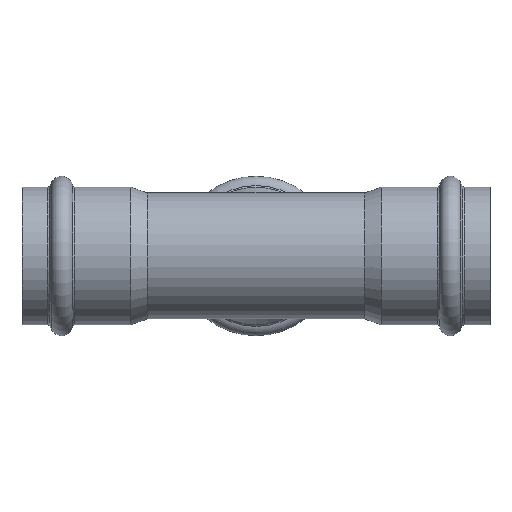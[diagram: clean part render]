
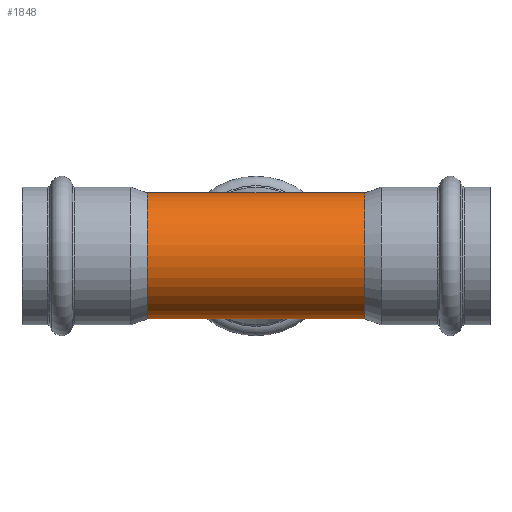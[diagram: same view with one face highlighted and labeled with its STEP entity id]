
A CAD part, front view. The second image highlights one B-rep face of the part: STEP entity #1848.
In plain terms, the highlighted cylindrical face has radius 17.5 mm (diameter 35 mm), a full revolution.
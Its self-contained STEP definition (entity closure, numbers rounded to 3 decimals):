
#1149=CARTESIAN_POINT('',(0.,0.0,-17.5));
#1150=VERTEX_POINT('',#1149);
#1151=CARTESIAN_POINT('',(0.,0.0,17.5));
#1152=VERTEX_POINT('',#1151);
#1160=CARTESIAN_POINT('',(0.,0.0,0.0));
#1161=DIRECTION('',(-0.687,0.726,0.));
#1162=DIRECTION('',(0.726,0.687,0.0));
#1163=AXIS2_PLACEMENT_3D('',#1160,#1161,#1162);
#1164=ELLIPSE('',#1163,25.466,17.5);
#1165=EDGE_CURVE('',#1152,#1150,#1164,.T.);
#1314=CARTESIAN_POINT('',(0.,0.0,0.0));
#1315=DIRECTION('',(0.687,0.726,0.));
#1316=DIRECTION('',(-0.726,0.687,0.0));
#1317=AXIS2_PLACEMENT_3D('',#1314,#1315,#1316);
#1318=ELLIPSE('',#1317,25.466,17.5);
#1319=EDGE_CURVE('',#1150,#1152,#1318,.T.);
#1810=CARTESIAN_POINT('',(-30.271,17.5,0.0));
#1811=VERTEX_POINT('',#1810);
#1812=CARTESIAN_POINT('',(-30.271,0.,0.0));
#1813=DIRECTION('',(1.0,0.0,0.0));
#1814=DIRECTION('',(0.0,1.0,0.0));
#1815=AXIS2_PLACEMENT_3D('',#1812,#1813,#1814);
#1816=CIRCLE('',#1815,17.5);
#1817=EDGE_CURVE('',#1811,#1811,#1816,.T.);
#1825=CARTESIAN_POINT('',(15.135,0.,0.0));
#1826=DIRECTION('',(1.0,0.,0.0));
#1827=DIRECTION('',(0.0,1.0,0.0));
#1828=AXIS2_PLACEMENT_3D('',#1825,#1826,#1827);
#1829=CYLINDRICAL_SURFACE('',#1828,17.5);
#1830=ORIENTED_EDGE('',*,*,#1817,.T.);
#1831=EDGE_LOOP('',(#1830));
#1832=FACE_OUTER_BOUND('',#1831,.T.);
#1833=ORIENTED_EDGE('',*,*,#1165,.F.);
#1834=ORIENTED_EDGE('',*,*,#1319,.F.);
#1835=EDGE_LOOP('',(#1833,#1834));
#1836=FACE_BOUND('',#1835,.T.);
#1837=CARTESIAN_POINT('',(30.271,17.5,0.0));
#1838=VERTEX_POINT('',#1837);
#1839=CARTESIAN_POINT('',(30.271,0.,0.0));
#1840=DIRECTION('',(1.0,0.0,0.0));
#1841=DIRECTION('',(0.0,1.0,0.0));
#1842=AXIS2_PLACEMENT_3D('',#1839,#1840,#1841);
#1843=CIRCLE('',#1842,17.5);
#1844=EDGE_CURVE('',#1838,#1838,#1843,.T.);
#1845=ORIENTED_EDGE('',*,*,#1844,.F.);
#1846=EDGE_LOOP('',(#1845));
#1847=FACE_BOUND('',#1846,.T.);
#1848=ADVANCED_FACE('',(#1832,#1836,#1847),#1829,.T.);
